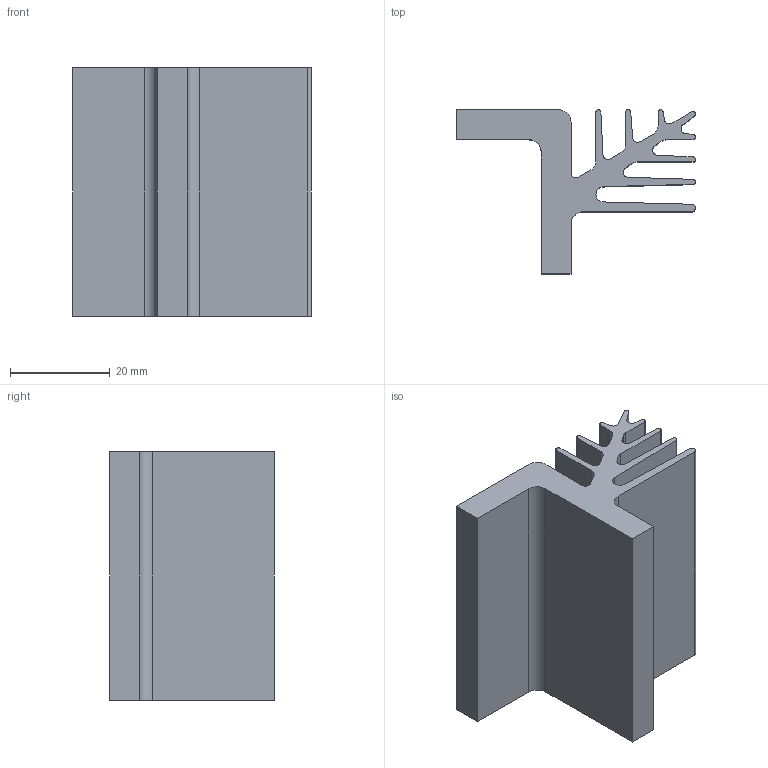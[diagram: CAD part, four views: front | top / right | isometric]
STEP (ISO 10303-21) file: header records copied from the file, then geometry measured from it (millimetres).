
FILE_DESCRIPTION (( 'STEP AP203' ), '1' );
FILE_NAME ('PR 143-50.step', '2002-10-20T23:43:01', ( 'Wolfgang Müller' ), ( 'DPS' ), 'SwSTEP 2.0', 'SolidWorks 2002264', '' );
FILE_SCHEMA (( 'CONFIG_CONTROL_DESIGN' ));
Length unit declared in the file: millimetre
Products named in the file (1): PR 143-50
Bounding box: 48 x 33 x 50 mm (x, y, z)
Volume: 25726.8 mm3; surface area: 15766.2 mm2
Topology: 1 solids, 1 shells, 58 faces, 168 edges, 112 vertices
Faces by surface type: plane 30, cylinder 28
Entity records: 2005 total; most frequent: DIRECTION 342, CARTESIAN_POINT 339, ORIENTED_EDGE 336, EDGE_CURVE 168, AXIS2_PLACEMENT_3D 115, VERTEX_POINT 112, LINE 112, VECTOR 112
